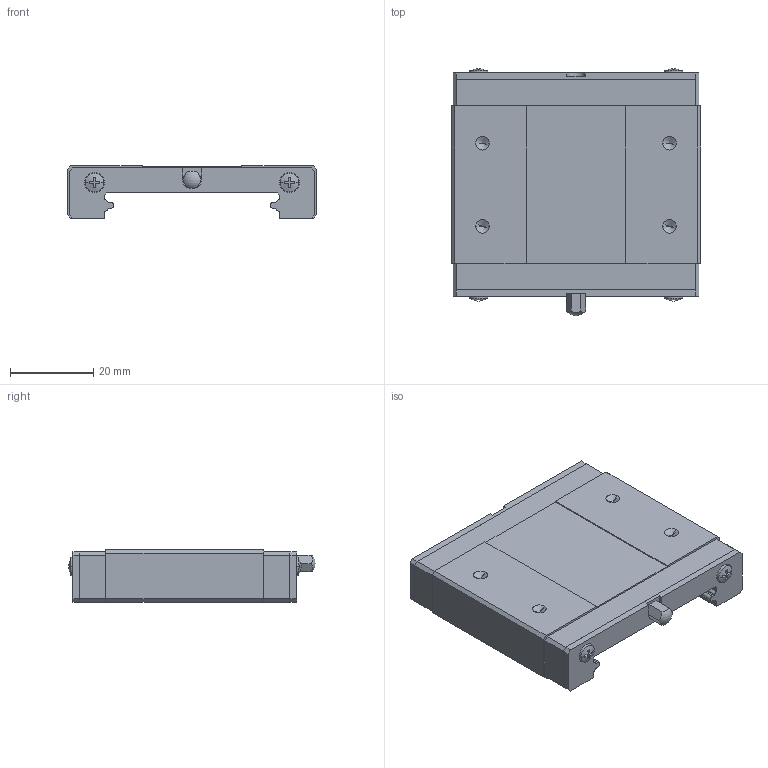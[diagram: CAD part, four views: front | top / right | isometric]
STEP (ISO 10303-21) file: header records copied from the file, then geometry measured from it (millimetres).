
FILE_DESCRIPTION(('no description'),'unknown implementation level');
FILE_NAME('MGW15C_ZF_H_M_SS_55.stp',' ',('HIWIN GmbH'),('CADClick - KiM GmbH - www.kimweb.de'),'unknown preprocess','ACIS','unknown authorization');
FILE_SCHEMA(('automotive_design'));
Length unit declared in the file: millimetre
Products named in the file (1): MGW15C ZF H M SS
Bounding box: 60 x 59.47 x 12.6 mm (x, y, z)
Volume: 26413.8 mm3; surface area: 9934.9 mm2
Topology: 1 solids, 4 shells, 223 faces, 602 edges, 392 vertices
Faces by surface type: plane 144, cylinder 50, cone 28, sphere 1
Entity records: 13585 total; most frequent: CARTESIAN_POINT 1322, STYLED_ITEM 1210, PRESENTATION_STYLE_ASSIGNMENT 1210, COLOUR_RGB 1210, ORIENTED_EDGE 1188, DIRECTION 1110, EDGE_CURVE 594, CURVE_STYLE 594
